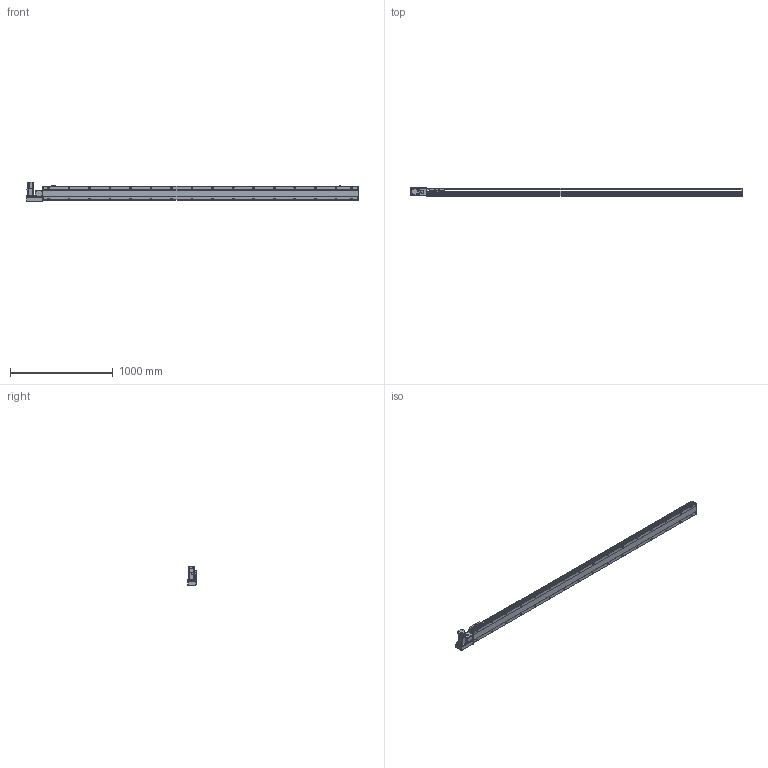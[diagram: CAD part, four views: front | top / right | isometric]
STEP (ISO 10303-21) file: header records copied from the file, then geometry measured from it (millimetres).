
FILE_DESCRIPTION( ( 'STEP AP214' ), '1' );
FILE_NAME( 'x:/temp/worker_27/temp/exporttempdir_6708_314_RXkhb/format_0/PBS140-P40-S2800-L-T40-C1-N(0).stp', '2022-06-06T01:07:35', ( 'License CC BY-ND 4.0' ), ( 'CADENAS' ), ' ', 'PARTsolutions', ' ' );
FILE_SCHEMA( ( 'AUTOMOTIVE_DESIGN { 1 0 10303 214 1 1 1 1 }' ) );
Length unit declared in the file: millimetre
Products named in the file (7): PBS140-P40-S2800-L-T40-C1-N(0); _PBS140-S2800()_body; _PBS140T-L_motors; _T40-p1; _PBS140_sliser; _PBS140_plant; _PBS140_sensor
Assembly tree (8 placements, depth 2):
  PBS140-P40-S2800-L-T40-C1-N(0)
    _PBS140-S2800()_body
    _PBS140T-L_motors
    _T40-p1
    _PBS140_sliser
    _PBS140_plant
    _PBS140_sensor  x3
Bounding box: 3233 x 80.5 x 189.7 mm (x, y, z)
Volume: 14058399.7 mm3; surface area: 2387949.2 mm2
Topology: 8 solids, 8 shells, 1203 faces, 3156 edges, 2061 vertices
Faces by surface type: plane 740, cylinder 395, cone 58, sphere 8, torus 2
Full cylindrical faces by diameter (mm): 3.242 x4, 4 x2, 4.134 x4, 4.4 x8, 4.5 x2, 4.8 x4, 4.917 x40, 5.5 x7, 6 x2, 7 x34, 7.5 x8, 8 x12, 8.5 x4, 10.5 x32, 14 x1, 30 x2, 50 x2
Entity records: 44425 total; most frequent: CARTESIAN_POINT 7595, DIRECTION 5757, ORIENTED_EDGE 5392, EDGE_CURVE 2696, AXIS2_PLACEMENT_3D 2047, VERTEX_POINT 1893, LINE 1663, VECTOR 1663
